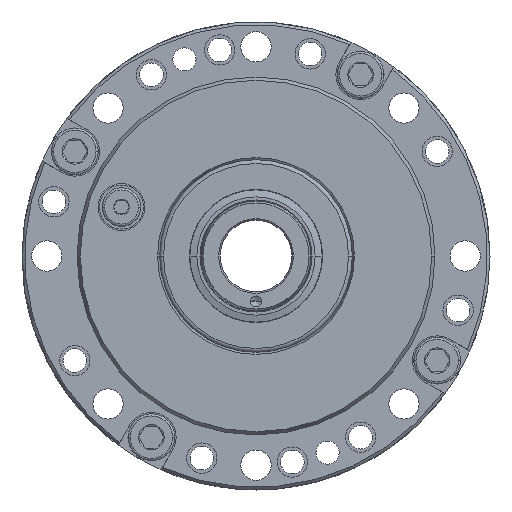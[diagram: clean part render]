
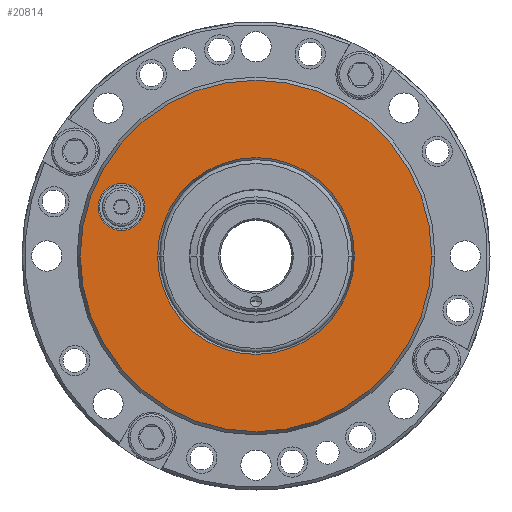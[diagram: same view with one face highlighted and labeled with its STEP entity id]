
A CAD part, left-side view. The second image highlights one B-rep face of the part: STEP entity #20814.
In plain terms, the highlighted planar face has unit normal (-1, 0, 0).
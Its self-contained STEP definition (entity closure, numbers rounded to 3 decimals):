
#13257=CARTESIAN_POINT('',(-31.,0.,0.));
#13258=DIRECTION('',(-1.,0.,0.));
#13259=DIRECTION('',(0.,-1.,0.));
#13260=AXIS2_PLACEMENT_3D('',#13257,#13258,#13259);
#13262=CARTESIAN_POINT('',(-31.,0.,0.));
#13263=DIRECTION('',(-1.,0.,0.));
#13264=DIRECTION('',(0.,1.,0.));
#13265=AXIS2_PLACEMENT_3D('',#13262,#13263,#13264);
#13267=CARTESIAN_POINT('',(-31.,0.,0.));
#13268=DIRECTION('',(1.,0.,0.));
#13269=DIRECTION('',(0.,-1.,0.));
#13270=AXIS2_PLACEMENT_3D('',#13267,#13268,#13269);
#13272=CARTESIAN_POINT('',(-31.,0.,0.));
#13273=DIRECTION('',(1.,0.,0.));
#13274=DIRECTION('',(0.,1.,0.));
#13275=AXIS2_PLACEMENT_3D('',#13272,#13273,#13274);
#13277=CARTESIAN_POINT('',(-31.,24.432,8.893));
#13278=DIRECTION('',(1.,0.,0.));
#13279=DIRECTION('',(0.,0.,1.));
#13280=AXIS2_PLACEMENT_3D('',#13277,#13278,#13279);
#13282=CARTESIAN_POINT('',(-31.,24.432,8.893));
#13283=DIRECTION('',(1.,0.,0.));
#13284=DIRECTION('',(0.,0.,-1.));
#13285=AXIS2_PLACEMENT_3D('',#13282,#13283,#13284);
#17960=CARTESIAN_POINT('',(-31.,-31.923,0.));
#17961=CARTESIAN_POINT('',(-31.,31.923,0.));
#17962=VERTEX_POINT('',#17960);
#17963=VERTEX_POINT('',#17961);
#17968=CARTESIAN_POINT('',(-31.,-17.864,0.));
#17969=CARTESIAN_POINT('',(-31.,17.864,0.));
#17970=VERTEX_POINT('',#17968);
#17971=VERTEX_POINT('',#17969);
#18212=CARTESIAN_POINT('',(-31.,24.432,13.143));
#18213=CARTESIAN_POINT('',(-31.,24.432,4.643));
#18214=VERTEX_POINT('',#18212);
#18215=VERTEX_POINT('',#18213);
#20792=CARTESIAN_POINT('',(-31.,0.,0.));
#20793=DIRECTION('',(1.,0.,0.));
#20794=DIRECTION('',(0.,1.,0.));
#20795=AXIS2_PLACEMENT_3D('',#20792,#20793,#20794);
#20796=PLANE('',#20795);
#20798=ORIENTED_EDGE('',*,*,#20797,.F.);
#20799=ORIENTED_EDGE('',*,*,#20782,.F.);
#20800=EDGE_LOOP('',(#20798,#20799));
#20801=FACE_OUTER_BOUND('',#20800,.F.);
#20803=ORIENTED_EDGE('',*,*,#20802,.F.);
#20805=ORIENTED_EDGE('',*,*,#20804,.F.);
#20806=EDGE_LOOP('',(#20803,#20805));
#20807=FACE_BOUND('',#20806,.F.);
#20809=ORIENTED_EDGE('',*,*,#20808,.F.);
#20811=ORIENTED_EDGE('',*,*,#20810,.F.);
#20812=EDGE_LOOP('',(#20809,#20811));
#20813=FACE_BOUND('',#20812,.F.);
#20814=ADVANCED_FACE('',(#20801,#20807,#20813),#20796,.F.);
#13261=CIRCLE('',#13260,31.923);
#13266=CIRCLE('',#13265,31.923);
#13271=CIRCLE('',#13270,17.864);
#13276=CIRCLE('',#13275,17.864);
#13281=CIRCLE('',#13280,4.25);
#13286=CIRCLE('',#13285,4.25);
#20782=EDGE_CURVE('',#17963,#17962,#13266,.T.);
#20797=EDGE_CURVE('',#17962,#17963,#13261,.T.);
#20802=EDGE_CURVE('',#17970,#17971,#13271,.T.);
#20804=EDGE_CURVE('',#17971,#17970,#13276,.T.);
#20808=EDGE_CURVE('',#18214,#18215,#13281,.T.);
#20810=EDGE_CURVE('',#18215,#18214,#13286,.T.);
